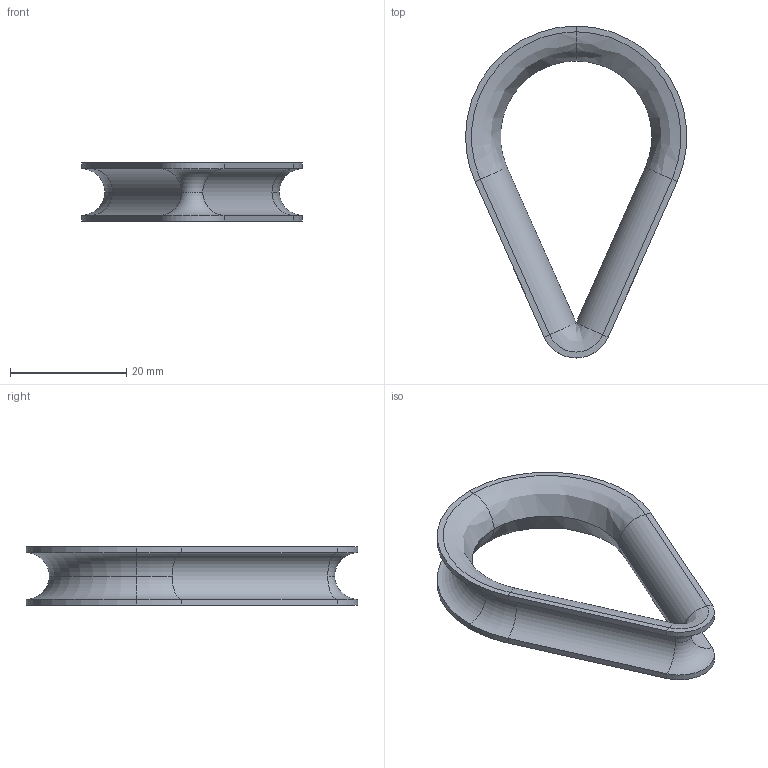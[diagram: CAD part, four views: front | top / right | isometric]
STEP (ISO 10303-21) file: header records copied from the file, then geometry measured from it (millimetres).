
FILE_DESCRIPTION (( 'STEP AP203' ), '1' );
FILE_NAME ('Rope thimble.STEP', '2026-02-27T16:06:10', ( '' ), ( '' ), 'SwSTEP 2.0', 'SolidWorks 2026', '' );
FILE_SCHEMA (( 'CONFIG_CONTROL_DESIGN' ));
Length unit declared in the file: millimetre
Products named in the file (1): Rope thimble
Bounding box: 37.94 x 57 x 10 mm (x, y, z)
Volume: 2864.6 mm3; surface area: 4127.7 mm2
Topology: 1 solids, 1 shells, 42 faces, 88 edges, 44 vertices
Faces by surface type: plane 14, cylinder 10, bspline 10, torus 8
Entity records: 1201 total; most frequent: CARTESIAN_POINT 279, DIRECTION 182, ORIENTED_EDGE 172, EDGE_CURVE 86, AXIS2_PLACEMENT_3D 73, VERTEX_POINT 44, ADVANCED_FACE 42, EDGE_LOOP 42
